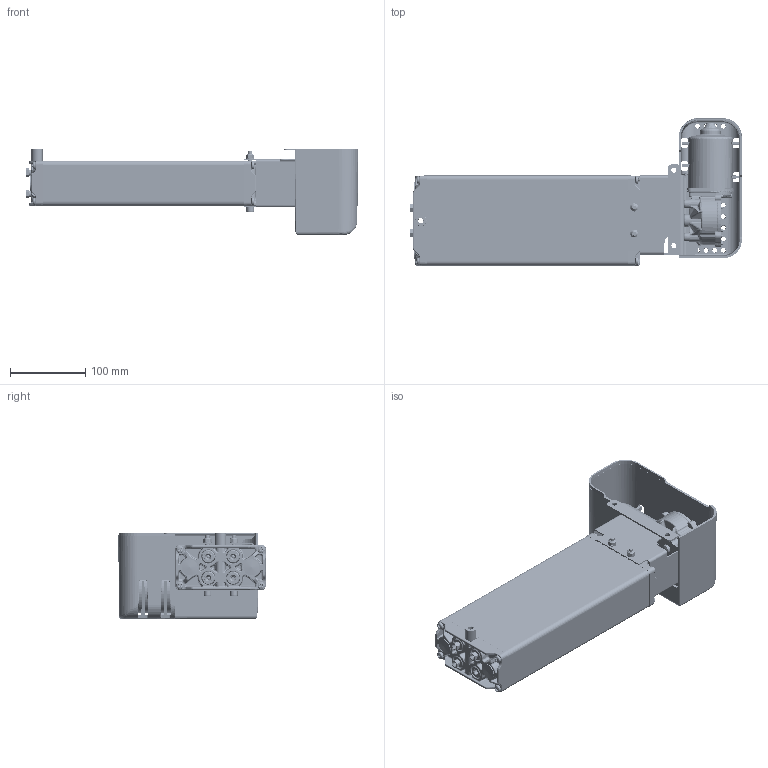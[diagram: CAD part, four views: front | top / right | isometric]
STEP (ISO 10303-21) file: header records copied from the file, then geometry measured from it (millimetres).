
FILE_DESCRIPTION(/* description */ ('Unknown'),/* implementation_level */ '2;1');
FILE_NAME(/* name */ '3X2.20021 Pumpe PB 3815 W mit Antrieb',/* time_stamp */ '2017-09-27T11:25:19+02:00',/* author */ ('Unknown'),/* organization */ ('Unknown'),/* preprocessor_version */ 'ST-DEVELOPER v16.7',/* originating_system */ 'DEX',/* authorisation */ $);
FILE_SCHEMA (('AUTOMOTIVE_DESIGN {1 0 10303 214 3 1 1}'));
Products named in the file (32): 102.20021; 115.00031; 125.00045; 115.00008; 142.00021; 125.00021; 142.00013; 125.00141; 115.00140; 126.00006; 122.00040; 119.00041; 126.00005; 127.00201; 127.00200; 127.00023; 124.00090; Getriebe; Ring; Schraube; Stator; Abdeckplatte; Antriebswelle; 128.00051; 123.00031; 142.00018; 142.00019; 142.00025; 142.00131; 123.00029; 142.00057; 142.00110
Assembly tree (47 placements, depth 3):
  102.20021
    115.00031  x3
      125.00045
      115.00008
      142.00021
      125.00021
    142.00013  x8
    125.00045
    125.00141
    115.00140
      126.00006
      122.00040
    119.00041
    126.00005
    127.00201
      127.00200
      127.00023
    124.00090
      Getriebe
      Ring
      Schraube
      Stator
      Abdeckplatte
      Antriebswelle
    128.00051
    123.00031
    142.00018  x2
    142.00019  x2
    142.00025  x2
    142.00131  x3
    123.00029
    142.00057
    142.00110  x2
Bounding box: 441.42 x 196.04 x 115.45 mm (x, y, z)
Volume: 924008.1 mm3; surface area: 575026.9 mm2
Topology: 46 solids, 48 shells, 4758 faces, 12062 edges, 7306 vertices
Faces by surface type: bspline 1367, plane 1288, cylinder 1258, cone 479, torus 267, sphere 99
Full cylindrical faces by diameter (mm): 2.5 x4, 3.2 x4, 3.5 x4, 3.9 x5, 4.1 x3, 4.2 x6, 4.4 x5, 4.5 x1, 4.917 x2, 5 x8, 5.5 x5, 6 x6, 6.4 x2, 6.8 x5, 6.917 x8, 7 x1, 8 x8, 8.5 x6, 9 x2, 9.5 x1, 9.8 x8, 10 x8, 10.3 x1, 10.32 x1, 10.4 x1, 11 x5, 14 x2, 14.4 x4, 15 x1, 15.8 x2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
Entity records: 203050 total; most frequent: CARTESIAN_POINT 106128, ORIENTED_EDGE 19232, DIRECTION 14257, EDGE_CURVE 9616, VERTEX_POINT 6197, AXIS2_PLACEMENT_3D 5612, FACE_BOUND 4605, EDGE_LOOP 4600
